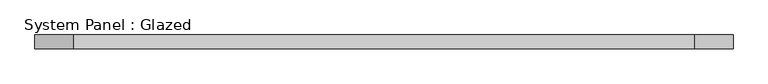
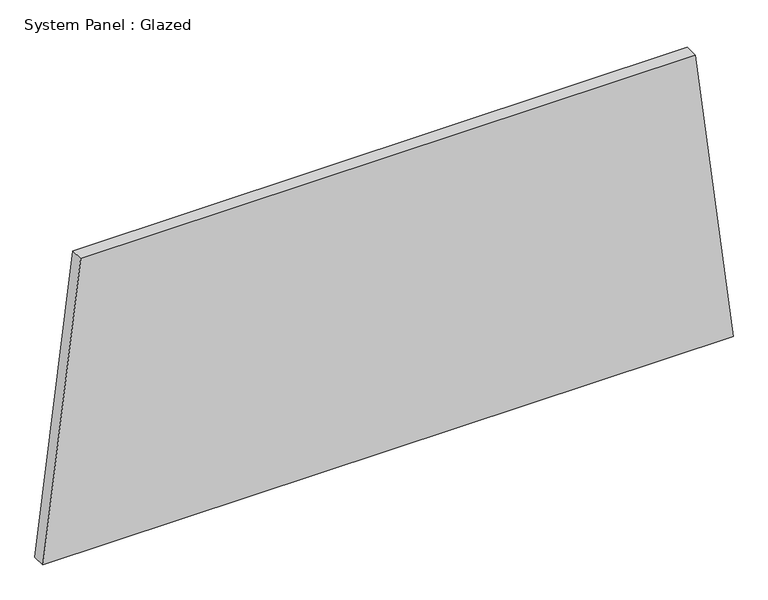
"""IFC4 building model written with IfcOpenShell, lengths in millimetres: plate geometry, System Panel : Glazed."""

from ifc_helpers import new_model, si_unit, frame, origin, place, context, project, spatial, polyline, outline, extrude, source, transform, mapped, element, save


def system_panel_glazed_17b64d9f(model_context):
    return source(origin(), model_context, "Body", "SweptSolid", [
        extrude(outline(polyline([(0.0, -643.553185), (0.0, 643.553185), (579.7498878, 573.1152479), (579.7498878, -573.1152479), (0.0, -643.553185)])), frame((0.0, 19.05, 0.0), z_axis=(0.0, 1.0, 0.0), x_axis=(0.0, 0.0, 1.0)), (0.0, 0.0, 1.0), 25.4),
    ])


if __name__ == "__main__":
    model = new_model("IFC4")
    model_context = context("Model", 3, world=origin())
    ifc_project = project(units=[si_unit("LENGTHUNIT", "METRE", prefix="MILLI")], contexts=[model_context])
    site = spatial("IfcSite", under=ifc_project)
    building = spatial("IfcBuilding", under=site)
    placement = place(None, origin())
    system_panel_glazed_shape = system_panel_glazed_17b64d9f(model_context)
    element("IfcPlate", 1, ObjectType="System Panel : Glazed", at=placement, inside=building, context=model_context, shape_type="MappedRepresentation", body=[
        mapped(system_panel_glazed_shape, transform((0.0, 0.0, 0.0), x_axis=(1.0, 0.0, 0.0), y_axis=(0.0, 1.0, 0.0), z_axis=(0.0, 0.0, 1.0))),
    ])
    save(model, "model.ifc")
